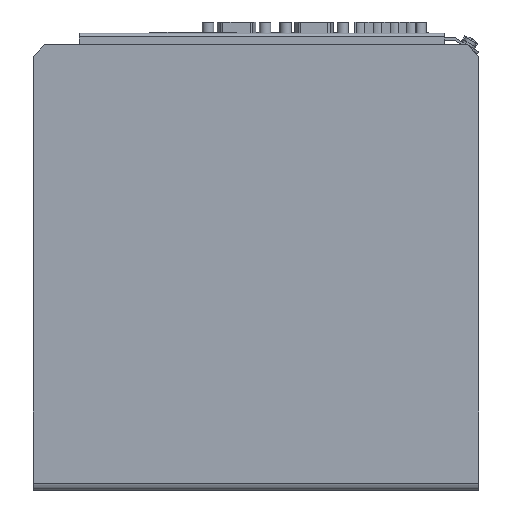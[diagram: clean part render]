
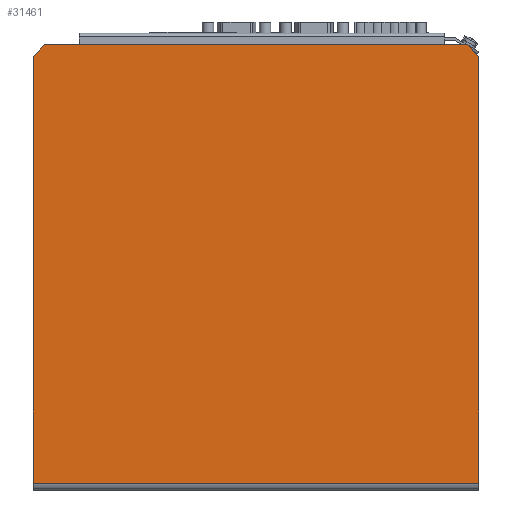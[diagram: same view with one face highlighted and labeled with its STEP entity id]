
A CAD part, left-side view. The second image highlights one B-rep face of the part: STEP entity #31461.
In plain terms, the highlighted planar face has unit normal (-1, 0, 0).
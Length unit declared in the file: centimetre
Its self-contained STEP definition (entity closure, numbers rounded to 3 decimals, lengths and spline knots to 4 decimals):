
#5789=VERTEX_POINT('',#52593);
#5792=VERTEX_POINT('',#52598);
#5793=VERTEX_POINT('',#52602);
#5794=VERTEX_POINT('',#52604);
#5795=VERTEX_POINT('',#52606);
#5796=VERTEX_POINT('',#52608);
#8730=VECTOR('',#37771,1.);
#8731=VECTOR('',#37773,1.);
#8732=VECTOR('',#37774,1.);
#8733=VECTOR('',#37775,1.);
#8734=VECTOR('',#37776,1.);
#8735=VECTOR('',#37777,1.);
#11671=LINE('',#52599,#8730);
#11672=LINE('',#52601,#8731);
#11673=LINE('',#52603,#8732);
#11674=LINE('',#52605,#8733);
#11675=LINE('',#52607,#8734);
#11676=LINE('',#52609,#8735);
#16136=EDGE_CURVE('',#5792,#5789,#11671,.T.);
#16137=EDGE_CURVE('',#5792,#5793,#11672,.T.);
#16138=EDGE_CURVE('',#5793,#5794,#11673,.T.);
#16139=EDGE_CURVE('',#5794,#5795,#11674,.T.);
#16140=EDGE_CURVE('',#5795,#5796,#11675,.T.);
#16141=EDGE_CURVE('',#5789,#5796,#11676,.T.);
#25028=ORIENTED_EDGE('',*,*,#16136,.F.);
#25029=ORIENTED_EDGE('',*,*,#16137,.T.);
#25030=ORIENTED_EDGE('',*,*,#16138,.T.);
#25031=ORIENTED_EDGE('',*,*,#16139,.T.);
#25032=ORIENTED_EDGE('',*,*,#16140,.T.);
#25033=ORIENTED_EDGE('',*,*,#16141,.F.);
#27474=EDGE_LOOP('',(#25028,#25029,#25030,#25031,#25032,#25033));
#29645=FACE_BOUND('',#27474,.T.);
#31461=ADVANCED_FACE('',(#29645),#53885,.T.);
#32936=AXIS2_PLACEMENT_3D('',#52600,#37772,$);
#37771=DIRECTION('',(0.,1.,0.));
#37772=DIRECTION('',(-1.,0.,0.));
#37773=DIRECTION('',(0.,0.,1.));
#37774=DIRECTION('',(0.,0.707,0.707));
#37775=DIRECTION('',(0.,1.,0.));
#37776=DIRECTION('',(0.,0.707,-0.707));
#37777=DIRECTION('',(0.,0.,1.));
#52593=CARTESIAN_POINT('',(0.,19.5,0.3));
#52598=CARTESIAN_POINT('',(0.,0.,0.3));
#52599=CARTESIAN_POINT('',(0.,9.4584,0.3));
#52600=CARTESIAN_POINT('',(0.,9.75,0.));
#52601=CARTESIAN_POINT('',(0.,0.,0.));
#52602=CARTESIAN_POINT('',(0.,0.,19.));
#52603=CARTESIAN_POINT('',(0.,-2.1875,16.8125));
#52604=CARTESIAN_POINT('',(0.,0.5,19.5));
#52605=CARTESIAN_POINT('',(0.,9.7,19.5));
#52606=CARTESIAN_POINT('',(0.,19.,19.5));
#52607=CARTESIAN_POINT('',(0.,21.6875,16.8125));
#52608=CARTESIAN_POINT('',(0.,19.5,19.));
#52609=CARTESIAN_POINT('',(0.,19.5,0.));
#53885=PLANE('',#32936);
